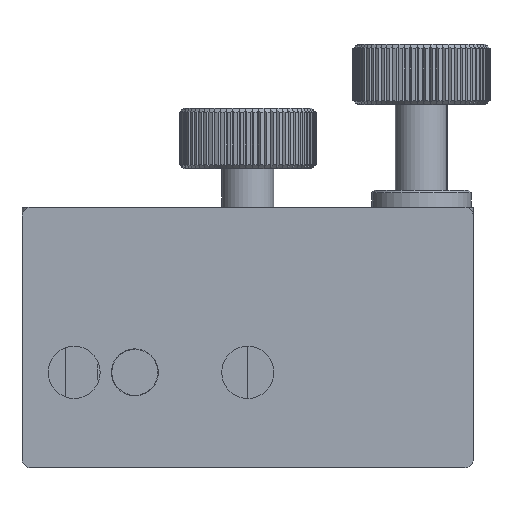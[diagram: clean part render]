
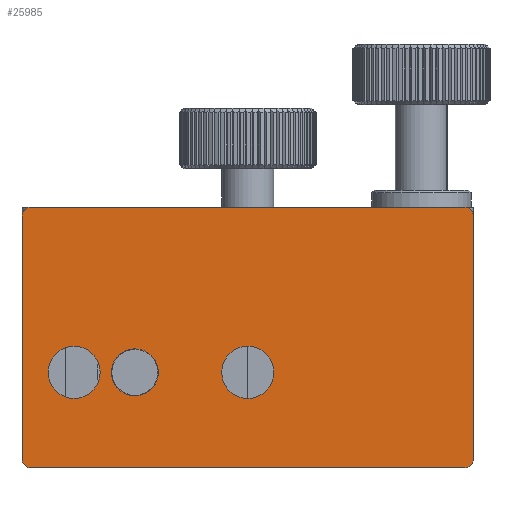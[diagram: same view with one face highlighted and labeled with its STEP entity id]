
A CAD part, front view. The second image highlights one B-rep face of the part: STEP entity #25985.
In plain terms, the highlighted planar face has unit normal (0, -1, 0).
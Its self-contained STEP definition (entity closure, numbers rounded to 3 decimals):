
#1689 = LINE ( 'NONE', #25534, #1696 ) ;
#1691 = CIRCLE ( 'NONE', #27852, 1. ) ;
#1692 = VECTOR ( 'NONE', #25461, 1000. ) ;
#1696 = VECTOR ( 'NONE', #25520, 1000. ) ;
#1704 = CIRCLE ( 'NONE', #27867, 1. ) ;
#1705 = VECTOR ( 'NONE', #25483, 1000. ) ;
#1707 = LINE ( 'NONE', #25448, #1705 ) ;
#1711 = CIRCLE ( 'NONE', #27888, 3. ) ;
#1726 = CIRCLE ( 'NONE', #27893, 1. ) ;
#1736 = LINE ( 'NONE', #25498, #1692 ) ;
#1743 = CIRCLE ( 'NONE', #27895, 2.7 ) ;
#1771 = VECTOR ( 'NONE', #25614, 1000. ) ;
#1800 = LINE ( 'NONE', #25663, #1771 ) ;
#1808 = CIRCLE ( 'NONE', #27906, 1. ) ;
#1814 = CIRCLE ( 'NONE', #27915, 3. ) ;
#2912 = CIRCLE ( 'NONE', #27896, 3. ) ;
#2969 = CIRCLE ( 'NONE', #27873, 2.7 ) ;
#2980 = CIRCLE ( 'NONE', #27862, 3. ) ;
#6513 = CARTESIAN_POINT ( 'NONE',  ( -27.174, -30.998, 2.15 ) ) ;
#6527 = CARTESIAN_POINT ( 'NONE',  ( -27.174, -30.998, -25.85 ) ) ;
#6535 = CARTESIAN_POINT ( 'NONE',  ( -21.174, -30.998, -12.85 ) ) ;
#6537 = CARTESIAN_POINT ( 'NONE',  ( -14.174, -30.998, -18.55 ) ) ;
#6540 = CARTESIAN_POINT ( 'NONE',  ( -1.174, -30.998, -18.85 ) ) ;
#6542 = CARTESIAN_POINT ( 'NONE',  ( -21.174, -30.998, -18.85 ) ) ;
#6550 = CARTESIAN_POINT ( 'NONE',  ( -1.174, -30.998, -12.85 ) ) ;
#6557 = CARTESIAN_POINT ( 'NONE',  ( -26.174, -30.998, 3.15 ) ) ;
#6572 = CARTESIAN_POINT ( 'NONE',  ( 24.826, -30.998, 2.15 ) ) ;
#6609 = CARTESIAN_POINT ( 'NONE',  ( -14.174, -30.998, -13.15 ) ) ;
#6621 = CARTESIAN_POINT ( 'NONE',  ( 23.826, -30.998, -26.85 ) ) ;
#7066 = CARTESIAN_POINT ( 'NONE',  ( 24.826, -30.998, -25.85 ) ) ;
#7111 = CARTESIAN_POINT ( 'NONE',  ( 23.826, -30.998, 3.15 ) ) ;
#7159 = CARTESIAN_POINT ( 'NONE',  ( -26.174, -30.998, -26.85 ) ) ;
#12919 = EDGE_LOOP ( 'NONE', ( #21207, #21201 ) ) ;
#12962 = EDGE_LOOP ( 'NONE', ( #21203, #21204 ) ) ;
#12977 = EDGE_LOOP ( 'NONE', ( #21211, #21189, #21186, #21226, #21181, #21229, #21197, #21157 ) ) ;
#13007 = EDGE_LOOP ( 'NONE', ( #21209, #21224 ) ) ;
#13404 = EDGE_CURVE ( 'NONE', #14417, #14408, #2912, .T. ) ;
#13455 = EDGE_CURVE ( 'NONE', #14453, #14425, #2969, .T. ) ;
#13513 = EDGE_CURVE ( 'NONE', #14391, #14403, #2980, .T. ) ;
#13522 = EDGE_CURVE ( 'NONE', #14452, #15048, #1691, .T. ) ;
#13539 = EDGE_CURVE ( 'NONE', #14443, #15030, #1704, .T. ) ;
#13558 = EDGE_CURVE ( 'NONE', #14443, #15053, #1707, .T. ) ;
#13567 = EDGE_CURVE ( 'NONE', #14452, #15030, #1736, .T. ) ;
#13575 = EDGE_CURVE ( 'NONE', #14403, #14391, #1711, .T. ) ;
#13580 = EDGE_CURVE ( 'NONE', #14405, #15053, #1726, .T. ) ;
#13595 = EDGE_CURVE ( 'NONE', #14425, #14453, #1743, .T. ) ;
#13601 = EDGE_CURVE ( 'NONE', #14440, #15048, #1689, .T. ) ;
#13612 = EDGE_CURVE ( 'NONE', #14408, #14417, #1814, .T. ) ;
#13642 = EDGE_CURVE ( 'NONE', #14405, #14439, #1800, .T. ) ;
#13644 = EDGE_CURVE ( 'NONE', #14440, #14439, #1808, .T. ) ;
#14391 = VERTEX_POINT ( 'NONE', #6550 ) ;
#14403 = VERTEX_POINT ( 'NONE', #6540 ) ;
#14405 = VERTEX_POINT ( 'NONE', #6527 ) ;
#14408 = VERTEX_POINT ( 'NONE', #6542 ) ;
#14417 = VERTEX_POINT ( 'NONE', #6535 ) ;
#14425 = VERTEX_POINT ( 'NONE', #6537 ) ;
#14439 = VERTEX_POINT ( 'NONE', #6513 ) ;
#14440 = VERTEX_POINT ( 'NONE', #6557 ) ;
#14443 = VERTEX_POINT ( 'NONE', #6621 ) ;
#14452 = VERTEX_POINT ( 'NONE', #6572 ) ;
#14453 = VERTEX_POINT ( 'NONE', #6609 ) ;
#15030 = VERTEX_POINT ( 'NONE', #7066 ) ;
#15048 = VERTEX_POINT ( 'NONE', #7111 ) ;
#15053 = VERTEX_POINT ( 'NONE', #7159 ) ;
#21157 = ORIENTED_EDGE ( 'NONE', *, *, #13539, .T. ) ;
#21181 = ORIENTED_EDGE ( 'NONE', *, *, #13642, .F. ) ;
#21186 = ORIENTED_EDGE ( 'NONE', *, *, #13601, .F. ) ;
#21189 = ORIENTED_EDGE ( 'NONE', *, *, #13522, .T. ) ;
#21197 = ORIENTED_EDGE ( 'NONE', *, *, #13558, .F. ) ;
#21201 = ORIENTED_EDGE ( 'NONE', *, *, #13404, .T. ) ;
#21203 = ORIENTED_EDGE ( 'NONE', *, *, #13575, .T. ) ;
#21204 = ORIENTED_EDGE ( 'NONE', *, *, #13513, .T. ) ;
#21207 = ORIENTED_EDGE ( 'NONE', *, *, #13612, .T. ) ;
#21209 = ORIENTED_EDGE ( 'NONE', *, *, #13455, .T. ) ;
#21211 = ORIENTED_EDGE ( 'NONE', *, *, #13567, .F. ) ;
#21224 = ORIENTED_EDGE ( 'NONE', *, *, #13595, .T. ) ;
#21226 = ORIENTED_EDGE ( 'NONE', *, *, #13644, .T. ) ;
#21229 = ORIENTED_EDGE ( 'NONE', *, *, #13580, .T. ) ;
#25347 = CARTESIAN_POINT ( 'NONE',  ( 23.826, -30.998, 2.15 ) ) ;
#25349 = DIRECTION ( 'NONE',  ( 0., 1., 0. ) ) ;
#25355 = DIRECTION ( 'NONE',  ( 0., -1., 0. ) ) ;
#25380 = DIRECTION ( 'NONE',  ( 0., 0., -1. ) ) ;
#25392 = DIRECTION ( 'NONE',  ( 0., 0., 1. ) ) ;
#25413 = CARTESIAN_POINT ( 'NONE',  ( -1.174, -30.998, -15.85 ) ) ;
#25433 = DIRECTION ( 'NONE',  ( 0., 0., 1. ) ) ;
#25448 = CARTESIAN_POINT ( 'NONE',  ( -27.174, -30.998, -26.85 ) ) ;
#25461 = DIRECTION ( 'NONE',  ( 0., 0., -1. ) ) ;
#25463 = DIRECTION ( 'NONE',  ( 0., -1., 0. ) ) ;
#25466 = CARTESIAN_POINT ( 'NONE',  ( 23.826, -30.998, -25.85 ) ) ;
#25483 = DIRECTION ( 'NONE',  ( -1., 0., 0. ) ) ;
#25498 = CARTESIAN_POINT ( 'NONE',  ( 24.826, -30.998, 3.15 ) ) ;
#25517 = DIRECTION ( 'NONE',  ( 0., -1., 0. ) ) ;
#25520 = DIRECTION ( 'NONE',  ( 1., 0., 0. ) ) ;
#25521 = CARTESIAN_POINT ( 'NONE',  ( -14.174, -30.998, -15.85 ) ) ;
#25534 = CARTESIAN_POINT ( 'NONE',  ( -27.174, -30.998, 3.15 ) ) ;
#25546 = DIRECTION ( 'NONE',  ( 0., 0., -1. ) ) ;
#25553 = DIRECTION ( 'NONE',  ( 0., 1., 0. ) ) ;
#25555 = CARTESIAN_POINT ( 'NONE',  ( -26.174, -30.998, -25.85 ) ) ;
#25557 = DIRECTION ( 'NONE',  ( 0., 0., 1. ) ) ;
#25575 = DIRECTION ( 'NONE',  ( 0., 1., 0. ) ) ;
#25582 = CARTESIAN_POINT ( 'NONE',  ( -1.174, -30.998, -15.85 ) ) ;
#25583 = DIRECTION ( 'NONE',  ( 0., 0., -1. ) ) ;
#25597 = DIRECTION ( 'NONE',  ( 0., 0., -1. ) ) ;
#25614 = DIRECTION ( 'NONE',  ( 0., 0., 1. ) ) ;
#25636 = CARTESIAN_POINT ( 'NONE',  ( -21.174, -30.998, -15.85 ) ) ;
#25663 = CARTESIAN_POINT ( 'NONE',  ( -27.174, -30.998, 3.15 ) ) ;
#25665 = DIRECTION ( 'NONE',  ( 0., 1., 0. ) ) ;
#25692 = CARTESIAN_POINT ( 'NONE',  ( -26.174, -30.998, 2.15 ) ) ;
#25719 = DIRECTION ( 'NONE',  ( 0., 0., 1. ) ) ;
#25731 = DIRECTION ( 'NONE',  ( 0., -1., 0. ) ) ;
#25985 = ADVANCED_FACE ( 'NONE', ( #35199, #35154, #35182, #35147 ), #31936, .T. ) ;
#26849 = CARTESIAN_POINT ( 'NONE',  ( -21.174, -30.998, -15.85 ) ) ;
#26873 = DIRECTION ( 'NONE',  ( 0., 1., 0. ) ) ;
#26883 = DIRECTION ( 'NONE',  ( 0., 0., -1. ) ) ;
#26944 = CARTESIAN_POINT ( 'NONE',  ( -14.174, -30.998, -15.85 ) ) ;
#26956 = DIRECTION ( 'NONE',  ( 0., 1., 0. ) ) ;
#26971 = DIRECTION ( 'NONE',  ( 0., 0., -1. ) ) ;
#27852 = AXIS2_PLACEMENT_3D ( 'NONE', #25347, #25355, #25392 ) ;
#27862 = AXIS2_PLACEMENT_3D ( 'NONE', #25413, #25349, #25380 ) ;
#27867 = AXIS2_PLACEMENT_3D ( 'NONE', #25466, #25463, #25433 ) ;
#27873 = AXIS2_PLACEMENT_3D ( 'NONE', #26944, #26956, #26971 ) ;
#27888 = AXIS2_PLACEMENT_3D ( 'NONE', #25582, #25553, #25583 ) ;
#27893 = AXIS2_PLACEMENT_3D ( 'NONE', #25555, #25517, #25557 ) ;
#27895 = AXIS2_PLACEMENT_3D ( 'NONE', #25521, #25575, #25546 ) ;
#27896 = AXIS2_PLACEMENT_3D ( 'NONE', #26849, #26873, #26883 ) ;
#27906 = AXIS2_PLACEMENT_3D ( 'NONE', #25692, #25731, #25719 ) ;
#27915 = AXIS2_PLACEMENT_3D ( 'NONE', #25636, #25665, #25597 ) ;
#31890 = DIRECTION ( 'NONE',  ( 0., 0., 1. ) ) ;
#31902 = DIRECTION ( 'NONE',  ( 0., -1., 0. ) ) ;
#31925 = CARTESIAN_POINT ( 'NONE',  ( 24.826, -30.998, -26.85 ) ) ;
#31936 = PLANE ( 'NONE',  #33279 ) ;
#33279 = AXIS2_PLACEMENT_3D ( 'NONE', #31925, #31902, #31890 ) ;
#35147 = FACE_BOUND ( 'NONE', #13007, .T. ) ;
#35154 = FACE_BOUND ( 'NONE', #12919, .T. ) ;
#35182 = FACE_OUTER_BOUND ( 'NONE', #12977, .T. ) ;
#35199 = FACE_BOUND ( 'NONE', #12962, .T. ) ;
